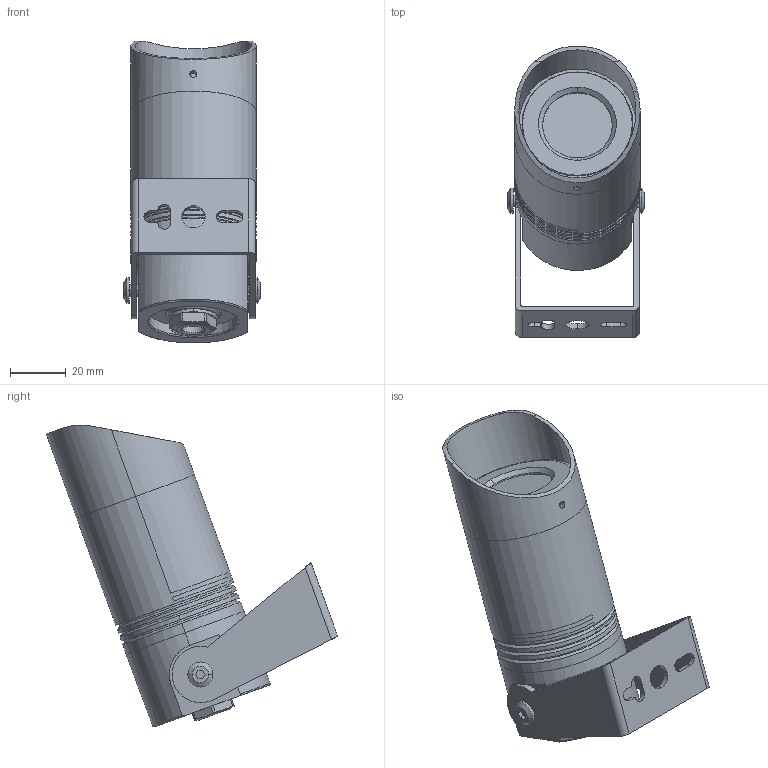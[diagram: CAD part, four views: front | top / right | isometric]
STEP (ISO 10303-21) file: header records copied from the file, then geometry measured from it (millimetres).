
FILE_DESCRIPTION((''),'2;1');
FILE_NAME('B3ACX0158_ASM','2026-03-06T14:07:40',('C164'),(''),'CREO PARAMETRIC BY PTC INC, 2021063','CREO PARAMETRIC BY PTC INC, 2021063','');
FILE_SCHEMA(('CONFIG_CONTROL_DESIGN'));
Length unit declared in the file: millimetre
Products named in the file (24): B3AB_42__O______L_10_1_1_10_1_1; __1_10_1_1_1_1_1; __2_10_1_1_1_1_1; B3AM_42__Z___ASM_10_ASM_1_ASM_A_ASM; 42-XKM_ASM_10_ASM_1_ASM_ASM_1_A; 3AC-HOUGAI-0618_2_9_2_1_1; 3AC-CHIKUAI_1_3_1_1_1; 3AC-ZHIJIA-0731_11_2_1_1; 3AC-KDP_1_1_1_1; DB-M4-8_2_1_1_1; SCREW-M12_1_18_2_1_1_1_1; XINGUIJIAO_14_2_1_1_1_1; GUIJIAOSAI-005_8_2_1_1_1_1; LUOMUZUJIAN_ASM_14_ASM_2_ASM_1__ASM; M14__ASM_2_ASM_1_ASM_1_ASM_1_AS_ASM; 3AC-MZH_4_1_1_1; PRT0009_2_1; B3AB_42_________L_10_1_1_1_1_1; PRT0010_1_1; B3AB_42____A_____20_ASM_28_AS_1_ASM; 3AC_ASM_1_ASM; 3AC-A-MG; 3AC-M; B3ACX0158_ASM
Assembly tree (25 placements, depth 6):
  B3ACX0158_ASM
    3AC_ASM_1_ASM
      B3AB_42____A_____20_ASM_28_AS_1_ASM
        B3AB_42__O______L_10_1_1_10_1_1
        B3AM_42__Z___ASM_10_ASM_1_ASM_A_ASM
          __1_10_1_1_1_1_1
          __2_10_1_1_1_1_1
        42-XKM_ASM_10_ASM_1_ASM_ASM_1_A
        3AC-HOUGAI-0618_2_9_2_1_1
        3AC-CHIKUAI_1_3_1_1_1  x2
        3AC-ZHIJIA-0731_11_2_1_1
        3AC-KDP_1_1_1_1
        DB-M4-8_2_1_1_1  x2
        M14__ASM_2_ASM_1_ASM_1_ASM_1_AS_ASM
          LUOMUZUJIAN_ASM_14_ASM_2_ASM_1__ASM
            SCREW-M12_1_18_2_1_1_1_1
            XINGUIJIAO_14_2_1_1_1_1
            GUIJIAOSAI-005_8_2_1_1_1_1
        3AC-MZH_4_1_1_1
        PRT0009_2_1
        B3AB_42_________L_10_1_1_1_1_1
        PRT0010_1_1
    3AC-A-MG
    3AC-M
Bounding box: 48.93 x 104.54 x 108.34 mm (x, y, z)
Volume: 100477.4 mm3; surface area: 69616 mm2
Topology: 19 solids, 19 shells, 1562 faces, 4195 edges, 2791 vertices
Faces by surface type: plane 980, extrusion 284, cylinder 151, cone 121, bspline 14, torus 12
Entity records: 44831 total; most frequent: CARTESIAN_POINT 11018, ORIENTED_EDGE 7270, DIRECTION 6051, EDGE_CURVE 3635, VECTOR 2691, VERTEX_POINT 2427, LINE 2407, AXIS2_PLACEMENT_3D 1680
